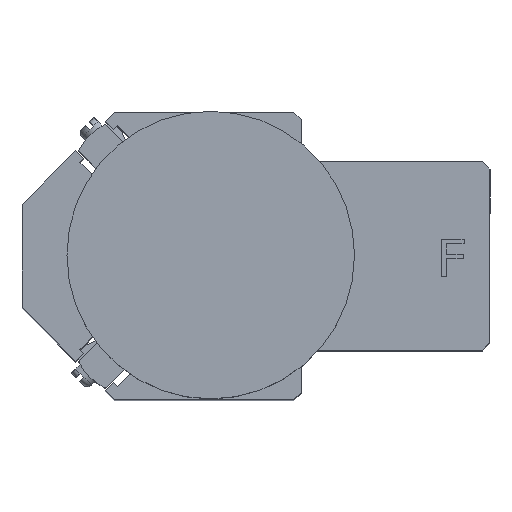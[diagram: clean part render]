
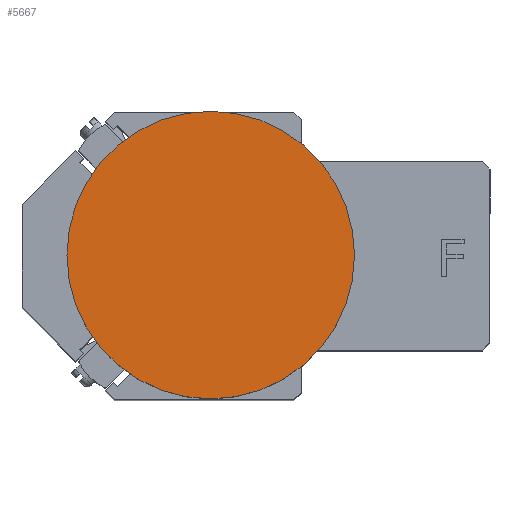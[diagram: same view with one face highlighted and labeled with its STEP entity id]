
A CAD part, top view. The second image highlights one B-rep face of the part: STEP entity #5667.
In plain terms, the highlighted planar face has unit normal (0, 0, 1) as drawn and (1, 0, 0) by its records, which use the part's own axes.
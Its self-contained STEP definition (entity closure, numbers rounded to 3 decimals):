
#477=PLANE('',#6488);
#763=FACE_OUTER_BOUND('',#1097,.T.);
#1097=EDGE_LOOP('',(#5253,#5254));
#2369=CIRCLE('',#6489,19.05);
#2370=CIRCLE('',#6490,19.05);
#2914=VERTEX_POINT('',#9882);
#2915=VERTEX_POINT('',#9883);
#3701=EDGE_CURVE('',#2914,#2915,#2369,.T.);
#3702=EDGE_CURVE('',#2915,#2914,#2370,.T.);
#5253=ORIENTED_EDGE('',*,*,#3701,.F.);
#5254=ORIENTED_EDGE('',*,*,#3702,.F.);
#5667=ADVANCED_FACE('',(#763),#477,.T.);
#6488=AXIS2_PLACEMENT_3D('',#9881,#8103,#8104);
#6489=AXIS2_PLACEMENT_3D('',#9884,#8105,#8106);
#6490=AXIS2_PLACEMENT_3D('',#9885,#8107,#8108);
#8103=DIRECTION('center_axis',(1.,0.,0.));
#8104=DIRECTION('ref_axis',(0.,0.,-1.));
#8105=DIRECTION('center_axis',(-1.,0.,0.));
#8106=DIRECTION('ref_axis',(0.,-1.,0.));
#8107=DIRECTION('center_axis',(-1.,0.,0.));
#8108=DIRECTION('ref_axis',(0.,-1.,0.));
#9881=CARTESIAN_POINT('Origin',(13.,-9.525,0.));
#9882=CARTESIAN_POINT('',(13.,-19.05,0.));
#9883=CARTESIAN_POINT('',(13.,19.05,0.));
#9884=CARTESIAN_POINT('Origin',(13.,0.,0.));
#9885=CARTESIAN_POINT('Origin',(13.,0.,0.));
